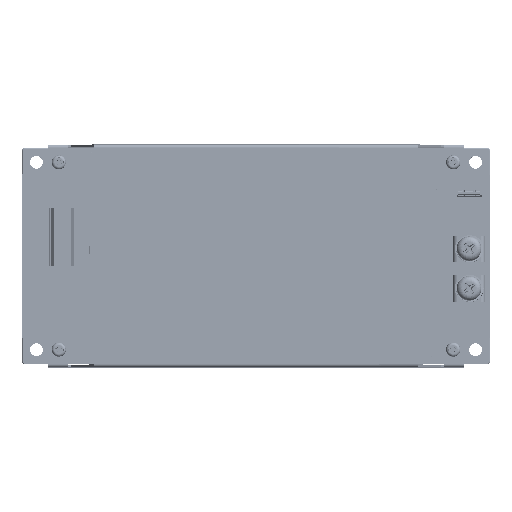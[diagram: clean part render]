
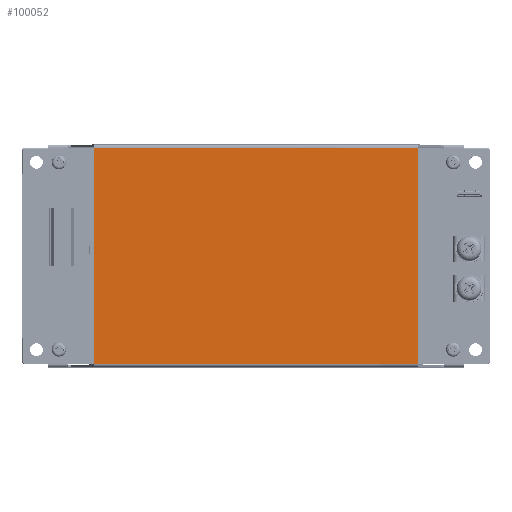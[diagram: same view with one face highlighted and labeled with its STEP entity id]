
A CAD part, top view. The second image highlights one B-rep face of the part: STEP entity #100052.
In plain terms, the highlighted planar face has unit normal (0, 0, 1).
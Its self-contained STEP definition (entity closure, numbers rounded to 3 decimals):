
#411 = CARTESIAN_POINT ( 'NONE',  ( -69.423, -23.075, 21.8 ) ) ;
#918 = ORIENTED_EDGE ( 'NONE', *, *, #10378, .T. ) ;
#1107 = LINE ( 'NONE', #45721, #68927 ) ;
#8925 = VECTOR ( 'NONE', #56126, 1000. ) ;
#9178 = VERTEX_POINT ( 'NONE', #15220 ) ;
#10378 = EDGE_CURVE ( 'NONE', #9178, #72714, #1107, .T. ) ;
#15220 = CARTESIAN_POINT ( 'NONE',  ( -69.423, -22.875, 21.8 ) ) ;
#25902 = VECTOR ( 'NONE', #144629, 1000. ) ;
#33798 = ORIENTED_EDGE ( 'NONE', *, *, #44682, .T. ) ;
#35349 = PLANE ( 'NONE',  #63894 ) ;
#36797 = DIRECTION ( 'NONE',  ( 0., -1., 0. ) ) ;
#37155 = EDGE_CURVE ( 'NONE', #9178, #141839, #88992, .T. ) ;
#38828 = ORIENTED_EDGE ( 'NONE', *, *, #37155, .F. ) ;
#44682 = EDGE_CURVE ( 'NONE', #71950, #141839, #56854, .T. ) ;
#45721 = CARTESIAN_POINT ( 'NONE',  ( -69.513, -22.875, 21.8 ) ) ;
#48836 = ORIENTED_EDGE ( 'NONE', *, *, #97765, .T. ) ;
#56126 = DIRECTION ( 'NONE',  ( -1., 0., 0. ) ) ;
#56854 = LINE ( 'NONE', #113200, #8925 ) ;
#60758 = CARTESIAN_POINT ( 'NONE',  ( 44.777, -23.075, 21.8 ) ) ;
#63894 = AXIS2_PLACEMENT_3D ( 'NONE', #136391, #68325, #36797 ) ;
#68325 = DIRECTION ( 'NONE',  ( 0., 0., 1. ) ) ;
#68927 = VECTOR ( 'NONE', #90414, 1000. ) ;
#71039 = DIRECTION ( 'NONE',  ( 0., 1., 0. ) ) ;
#71950 = VERTEX_POINT ( 'NONE', #76046 ) ;
#72457 = LINE ( 'NONE', #60758, #84704 ) ;
#72714 = VERTEX_POINT ( 'NONE', #102366 ) ;
#76046 = CARTESIAN_POINT ( 'NONE',  ( 44.777, 53.285, 21.8 ) ) ;
#82199 = FACE_OUTER_BOUND ( 'NONE', #97988, .T. ) ;
#84704 = VECTOR ( 'NONE', #71039, 1000. ) ;
#88992 = LINE ( 'NONE', #411, #25902 ) ;
#90414 = DIRECTION ( 'NONE',  ( 1., 0., 0. ) ) ;
#97765 = EDGE_CURVE ( 'NONE', #72714, #71950, #72457, .T. ) ;
#97988 = EDGE_LOOP ( 'NONE', ( #48836, #33798, #38828, #918 ) ) ;
#100052 = ADVANCED_FACE ( 'NONE', ( #82199 ), #35349, .T. ) ;
#102366 = CARTESIAN_POINT ( 'NONE',  ( 44.777, -22.875, 21.8 ) ) ;
#113200 = CARTESIAN_POINT ( 'NONE',  ( 44.866, 53.285, 21.8 ) ) ;
#131529 = CARTESIAN_POINT ( 'NONE',  ( -69.423, 53.285, 21.8 ) ) ;
#136391 = CARTESIAN_POINT ( 'NONE',  ( -69.423, -23.075, 21.8 ) ) ;
#141839 = VERTEX_POINT ( 'NONE', #131529 ) ;
#144629 = DIRECTION ( 'NONE',  ( 0., 1., 0. ) ) ;
